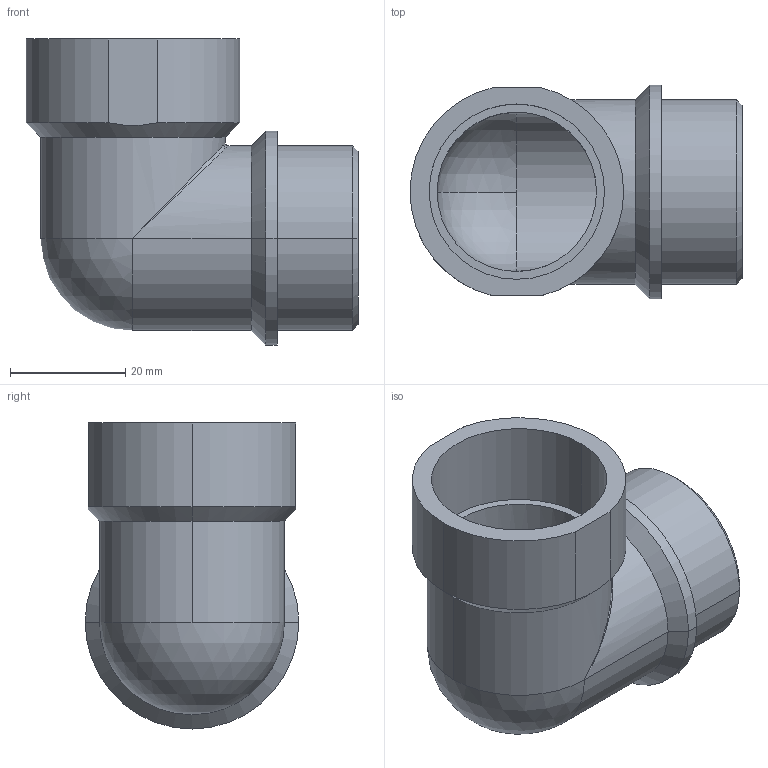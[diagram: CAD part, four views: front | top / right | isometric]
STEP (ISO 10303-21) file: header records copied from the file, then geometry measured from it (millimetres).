
FILE_DESCRIPTION (( 'STEP AP203' ), '1' );
FILE_NAME ('21.632PA7035.STEP', '2006-05-17T09:34:10', ( ' ' ), ( '' ), 'SwSTEP 2.0', 'SolidWorks 2005278', '' );
FILE_SCHEMA (( 'CONFIG_CONTROL_DESIGN' ));
Length unit declared in the file: millimetre
Products named in the file (1): 21.632PA7035
Bounding box: 57.5 x 37 x 53 mm (x, y, z)
Volume: 17820.9 mm3; surface area: 14916.9 mm2
Topology: 1 solids, 1 shells, 70 faces, 179 edges, 111 vertices
Faces by surface type: plane 43, cylinder 17, cone 6, sphere 3, bspline 1
Entity records: 2774 total; most frequent: CARTESIAN_POINT 1023, ORIENTED_EDGE 346, DIRECTION 343, EDGE_CURVE 173, LINE 129, VECTOR 129, VERTEX_POINT 110, AXIS2_PLACEMENT_3D 107
